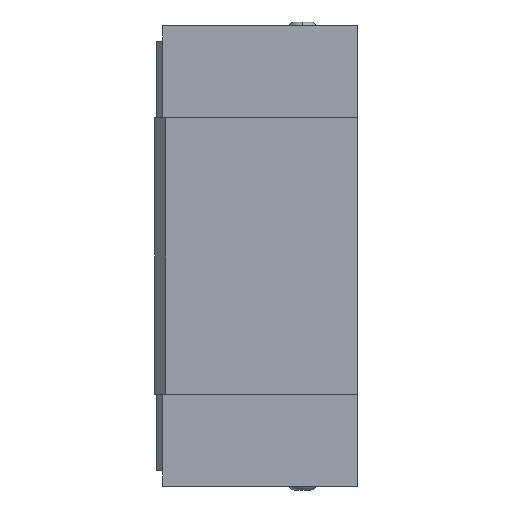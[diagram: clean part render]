
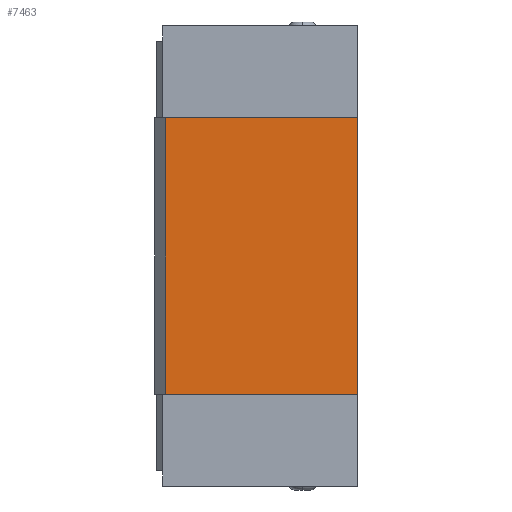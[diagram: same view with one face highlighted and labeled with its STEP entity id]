
A CAD part, left-side view. The second image highlights one B-rep face of the part: STEP entity #7463.
In plain terms, the highlighted planar face has unit normal (-1, 0, 0).
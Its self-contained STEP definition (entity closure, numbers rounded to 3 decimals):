
#21 = EDGE_CURVE ( 'NONE', #6773, #1691, #2154, .T. ) ;
#292 = CARTESIAN_POINT ( 'NONE',  ( -24., -11., -35.5 ) ) ;
#395 = ORIENTED_EDGE ( 'NONE', *, *, #6766, .F. ) ;
#488 = LINE ( 'NONE', #6415, #683 ) ;
#683 = VECTOR ( 'NONE', #3506, 1000. ) ;
#783 = VERTEX_POINT ( 'NONE', #6508 ) ;
#804 = ORIENTED_EDGE ( 'NONE', *, *, #1576, .F. ) ;
#955 = FACE_OUTER_BOUND ( 'NONE', #7422, .T. ) ;
#1239 = ORIENTED_EDGE ( 'NONE', *, *, #21, .F. ) ;
#1576 = EDGE_CURVE ( 'NONE', #1691, #783, #1999, .T. ) ;
#1691 = VERTEX_POINT ( 'NONE', #1806 ) ;
#1806 = CARTESIAN_POINT ( 'NONE',  ( -24., 13.6, 0. ) ) ;
#1824 = VECTOR ( 'NONE', #3960, 1000. ) ;
#1999 = LINE ( 'NONE', #5122, #1824 ) ;
#2154 = LINE ( 'NONE', #3887, #2544 ) ;
#2544 = VECTOR ( 'NONE', #3582, 1000. ) ;
#2555 = CARTESIAN_POINT ( 'NONE',  ( -24., -11., 0. ) ) ;
#3169 = DIRECTION ( 'NONE',  ( 1., 0., 0. ) ) ;
#3506 = DIRECTION ( 'NONE',  ( 0., 1., 0. ) ) ;
#3582 = DIRECTION ( 'NONE',  ( 0., 0., 1. ) ) ;
#3887 = CARTESIAN_POINT ( 'NONE',  ( -24., 13.6, -29.5 ) ) ;
#3960 = DIRECTION ( 'NONE',  ( 0., -1., 0. ) ) ;
#4093 = CARTESIAN_POINT ( 'NONE',  ( -24., 13.6, -35.5 ) ) ;
#4273 = LINE ( 'NONE', #292, #4732 ) ;
#4453 = DIRECTION ( 'NONE',  ( 0., 0., -1. ) ) ;
#4732 = VECTOR ( 'NONE', #4453, 1000. ) ;
#5122 = CARTESIAN_POINT ( 'NONE',  ( -24., 13.9, 0. ) ) ;
#5165 = AXIS2_PLACEMENT_3D ( 'NONE', #2555, #3169, #7265 ) ;
#5231 = CARTESIAN_POINT ( 'NONE',  ( -24., -11., -35.5 ) ) ;
#5262 = EDGE_CURVE ( 'NONE', #783, #6762, #4273, .T. ) ;
#6106 = PLANE ( 'NONE',  #5165 ) ;
#6404 = ORIENTED_EDGE ( 'NONE', *, *, #5262, .F. ) ;
#6415 = CARTESIAN_POINT ( 'NONE',  ( -24., -11., -35.5 ) ) ;
#6508 = CARTESIAN_POINT ( 'NONE',  ( -24., -11., 0. ) ) ;
#6762 = VERTEX_POINT ( 'NONE', #5231 ) ;
#6766 = EDGE_CURVE ( 'NONE', #6762, #6773, #488, .T. ) ;
#6773 = VERTEX_POINT ( 'NONE', #4093 ) ;
#7265 = DIRECTION ( 'NONE',  ( 0., 0., -1. ) ) ;
#7422 = EDGE_LOOP ( 'NONE', ( #1239, #395, #6404, #804 ) ) ;
#7463 = ADVANCED_FACE ( 'NONE', ( #955 ), #6106, .F. ) ;
